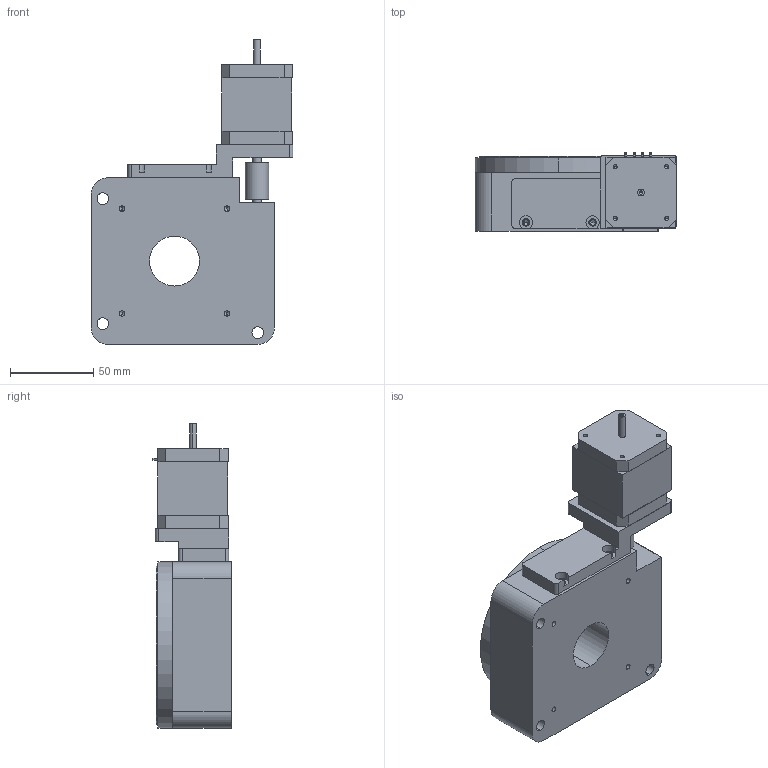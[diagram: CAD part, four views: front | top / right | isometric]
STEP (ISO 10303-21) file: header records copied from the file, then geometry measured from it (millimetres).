
FILE_DESCRIPTION (( 'STEP AP203' ), '1' );
FILE_NAME ('蚾饜极1^SDI-161軞蚾.STEP', '2025-05-08T06:19:22', ( 'Windows User' ), ( 'P R C' ), 'SwSTEP 2.0', 'SolidWorks 2021', '' );
FILE_SCHEMA (( 'CONFIG_CONTROL_DESIGN' ));
Length unit declared in the file: millimetre
Products named in the file (5): PX110-100ת̨; LM-14×22-5×5联轴器; 蚾饜极1^SDI-161軞蚾; PX110-100原装转台电机转接件; HS4248W-NT-SZ隅秶萇儂
Assembly tree (4 placements, depth 2):
  蚾饜极1^SDI-161軞蚾
    LM-14×22-5×5联轴器
    PX110-100ת̨
    HS4248W-NT-SZ隅秶萇儂
    PX110-100原装转台电机转接件
Bounding box: 121 x 47 x 183 mm (x, y, z)
Volume: 518505.1 mm3; surface area: 75380.8 mm2
Topology: 4 solids, 4 shells, 312 faces, 758 edges, 439 vertices
Faces by surface type: cylinder 156, plane 86, cone 70
Entity records: 9274 total; most frequent: DIRECTION 1624, CARTESIAN_POINT 1541, ORIENTED_EDGE 1376, EDGE_CURVE 688, AXIS2_PLACEMENT_3D 624, VERTEX_POINT 439, EDGE_LOOP 391, LINE 376
